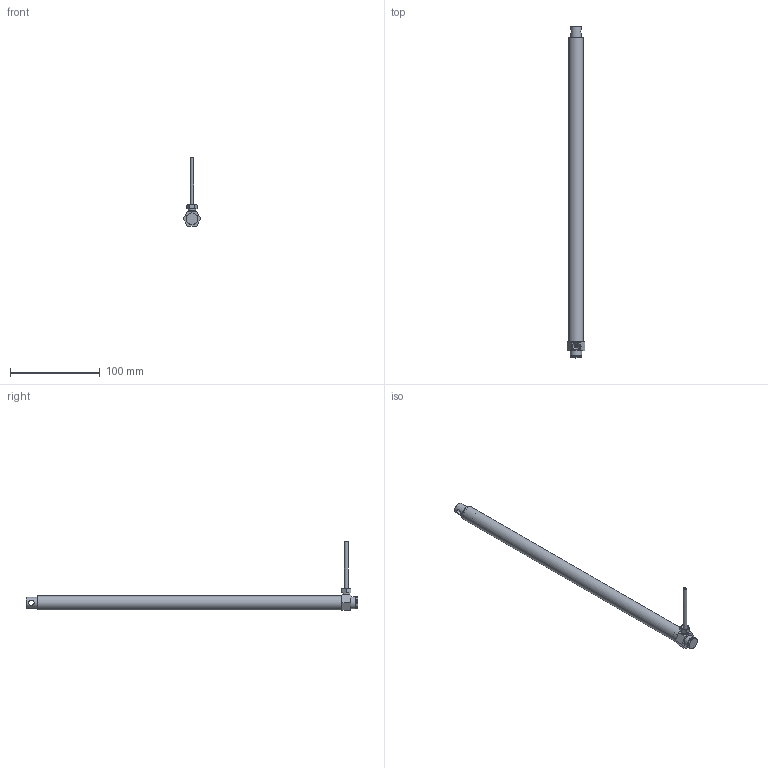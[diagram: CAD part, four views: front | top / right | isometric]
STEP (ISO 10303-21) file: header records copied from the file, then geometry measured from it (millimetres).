
FILE_DESCRIPTION(/* description */ ('Unknown'),/* implementation_level */ '2;1');
FILE_NAME(/* name */ '107.00023 Zylinder CB 1430_eingefahren',/* time_stamp */ '2018-03-26T08:54:14+02:00',/* author */ ('Unknown'),/* organization */ ('Unknown'),/* preprocessor_version */ 'ST-DEVELOPER v16.7',/* originating_system */ 'DEX',/* authorisation */ $);
FILE_SCHEMA (('AUTOMOTIVE_DESIGN {1 0 10303 214 3 1 1}'));
Length unit declared in the file: millimetre
Products named in the file (9): 107.00023; 121.00003; 142.00021; 125.00021; 115.00001_oa_0; 125.00033; 120.00003; 122.00001; 113.00002_70mm
Assembly tree (8 placements, depth 2):
  107.00023
    121.00003
    142.00021
    125.00021
    115.00001_oa_0
    125.00033
    120.00003
    122.00001
    113.00002_70mm
Bounding box: 19.63 x 369 x 76.5 mm (x, y, z)
Volume: 59069.7 mm3; surface area: 50602.5 mm2
Topology: 7 solids, 7 shells, 91 faces, 188 edges, 121 vertices
Faces by surface type: plane 37, cylinder 28, cone 22, torus 3, sphere 1
Full cylindrical faces by diameter (mm): 2.2 x1, 2.78 x1, 3.5 x1, 4 x1, 4.1 x1, 4.2 x1, 6 x1, 6.917 x2, 7.763 x2, 8 x3, 8.1 x3, 9 x1, 12 x2, 12.5 x1, 13 x2, 13.9 x2, 14 x2, 16 x1
Entity records: 2733 total; most frequent: CARTESIAN_POINT 436, DIRECTION 380, ORIENTED_EDGE 248, AXIS2_PLACEMENT_3D 172, FACE_BOUND 164, EDGE_LOOP 162, EDGE_CURVE 124, VERTEX_POINT 108
